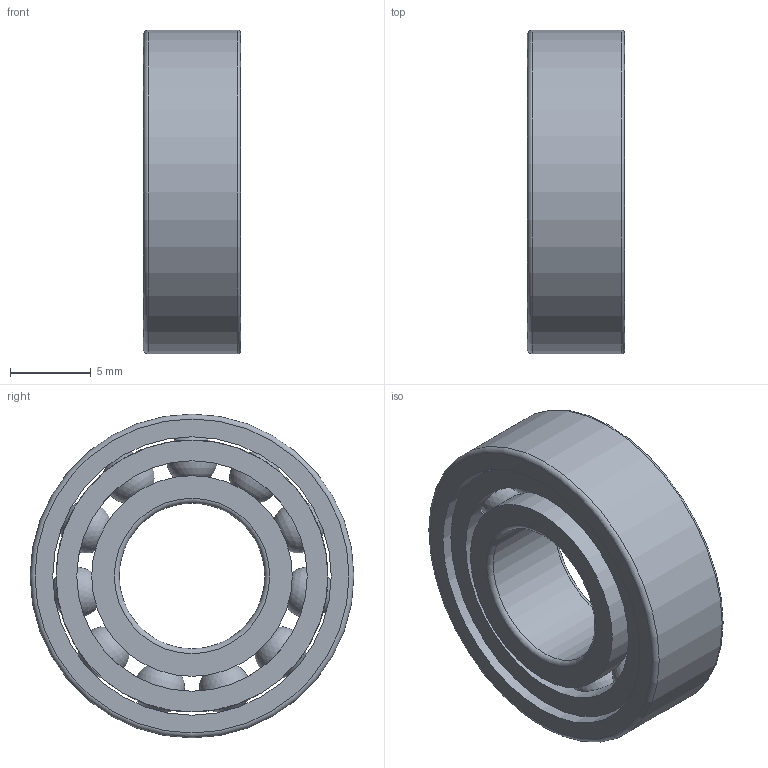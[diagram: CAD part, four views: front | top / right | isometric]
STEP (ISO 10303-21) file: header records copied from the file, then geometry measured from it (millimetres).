
FILE_DESCRIPTION(/* description */ (''),/* implementation_level */ '2;1');
FILE_NAME(/* name */ 'S_6199_TA.step',/* time_stamp */ '2013-03-06T14:46:44+01:00',/* author */ ('Marian'),/* organization */ ('GMN'),/* preprocessor_version */ 'ST-DEVELOPER v11',/* originating_system */ 'SIEMENS UGS NX 6.0',/* authorisation */ '');
FILE_SCHEMA (('CONFIG_CONTROL_DESIGN'));
Length unit declared in the file: millimetre
Products named in the file (1): S_6199_TA
Bounding box: 6 x 20 x 20 mm (x, y, z)
Volume: 1115.6 mm3; surface area: 2271.2 mm2
Topology: 14 solids, 14 shells, 42 faces, 100 edges, 64 vertices
Faces by surface type: cylinder 18, sphere 11, torus 6, plane 6, cone 1
Full cylindrical faces by diameter (mm): 3.375 x11, 9 x1, 12.4 x2, 14.235 x1, 16.8 x1, 17.2 x1, 20 x1
Entity records: 2192 total; most frequent: CARTESIAN_POINT 1392, DIRECTION 126, FACE_BOUND 95, EDGE_LOOP 84, ORIENTED_EDGE 84, AXIS2_PLACEMENT_3D 63, VERTEX_POINT 53, EDGE_CURVE 42
